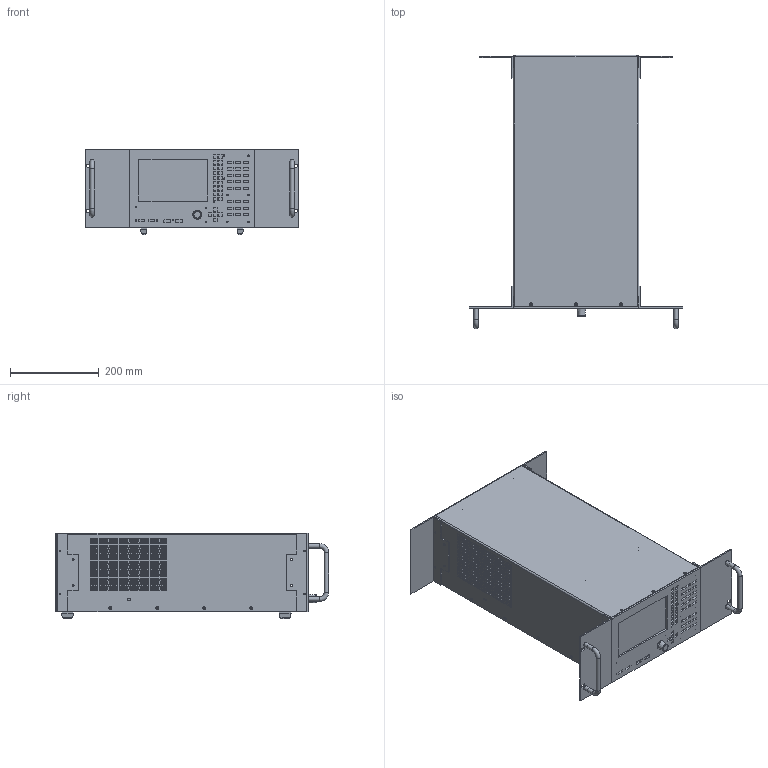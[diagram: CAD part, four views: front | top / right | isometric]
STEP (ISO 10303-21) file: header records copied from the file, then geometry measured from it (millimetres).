
FILE_DESCRIPTION(/* description */ (''),/* implementation_level */ '2;1');
FILE_NAME(/* name */ 'C:\Users\rs\Desktop\LMG 640 Einbaugerät 19Zoll.stp',/* time_stamp */ '2016-02-02T10:47:53+01:00',/* author */ ('rs'),/* organization */ (''),/* preprocessor_version */ 'ST-DEVELOPER v15.6',/* originating_system */ 'Autodesk Inventor 2015',/* authorisation */ '');
FILE_SCHEMA (('AUTOMOTIVE_DESIGN { 1 0 10303 214 3 1 1 }'));
Products named in the file (14): L64CH-b; L64FP; L64Deckel-b; DKNOPF04-LMG600; L6RWK-b; L6RWPC-c; FUSS04-Mentor; L64FrontBlindplatte; L64RWBlindplatte; L64BodenBlindplatte; L64BW19-a; L64BW19-RW-a; 00000376; MLMG640-Transport Koffer
Bounding box: 482.7 x 616.7 x 192.5 mm (x, y, z)
Volume: 2321554.5 mm3; surface area: 1909969.9 mm2
Topology: 22 solids, 22 shells, 2598 faces, 7489 edges, 4952 vertices
Faces by surface type: plane 1443, cylinder 1075, cone 71, torus 5, bspline 4
Full cylindrical faces by diameter (mm): 2 x8, 3 x14, 3.2 x59, 3.5 x8, 4 x12, 4.1 x4, 4.2 x10, 4.25 x21, 4.4 x45, 4.5 x8, 5 x4, 5.5 x4, 6.5 x20, 7.4 x8, 8 x3, 10 x6, 15 x24, 15.5 x1, 20 x1
Entity records: 80200 total; most frequent: CARTESIAN_POINT 13738, DIRECTION 13469, ORIENTED_EDGE 13244, EDGE_CURVE 6622, LINE 4583, VECTOR 4583, VERTEX_POINT 4533, AXIS2_PLACEMENT_3D 4443
